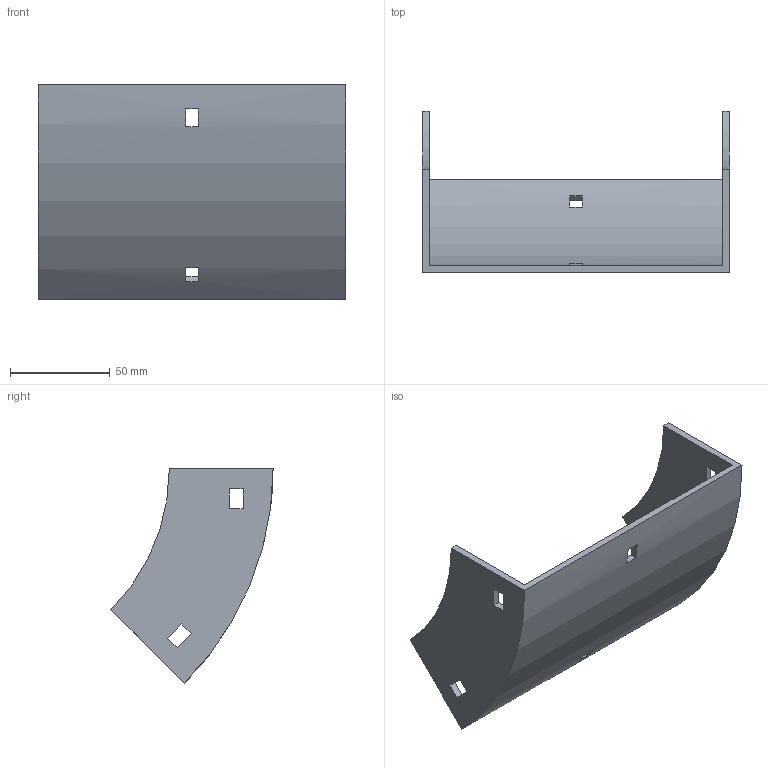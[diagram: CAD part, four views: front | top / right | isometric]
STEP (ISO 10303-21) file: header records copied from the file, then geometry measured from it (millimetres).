
FILE_DESCRIPTION (( 'STEP AP214' ), '1' );
FILE_NAME ('31B1B150.step', '2025-02-21T09:46:35', ( '' ), ( '' ), 'SwSTEP 2.0', 'SolidWorks 2023', '' );
FILE_SCHEMA (( 'AUTOMOTIVE_DESIGN' ));
Length unit declared in the file: millimetre
Products named in the file (1): 31B1B150
Bounding box: 154 x 81.29 x 107.48 mm (x, y, z)
Volume: 95343.6 mm3; surface area: 57492.8 mm2
Topology: 1 solids, 1 shells, 34 faces, 96 edges, 64 vertices
Faces by surface type: plane 30, cylinder 4
Entity records: 1143 total; most frequent: CARTESIAN_POINT 195, ORIENTED_EDGE 192, DIRECTION 182, EDGE_CURVE 96, LINE 80, VECTOR 80, VERTEX_POINT 64, AXIS2_PLACEMENT_3D 51
